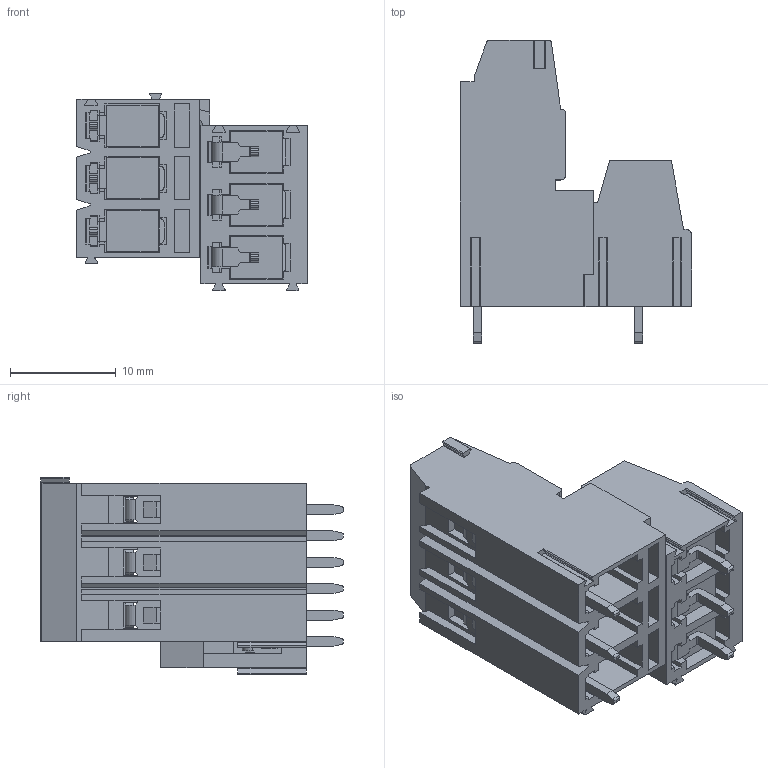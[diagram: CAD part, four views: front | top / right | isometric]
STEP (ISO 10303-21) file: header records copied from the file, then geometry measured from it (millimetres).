
FILE_DESCRIPTION((''),'2;1');
FILE_NAME('3PIN','2021-02-25T',('renkang.li'),(''),'CREO PARAMETRIC BY PTC INC, 2016260','CREO PARAMETRIC BY PTC INC, 2016260','');
FILE_SCHEMA(('CONFIG_CONTROL_DESIGN'));
Products named in the file (1): 3PIN
Bounding box: 21.9 x 28.7 x 18.69 mm (x, y, z)
Volume: 3341.9 mm3; surface area: 7892.6 mm2
Topology: 1 solids, 1 shells, 1422 faces, 4286 edges, 2830 vertices
Faces by surface type: plane 909, cylinder 387, bspline 60, cone 36, torus 30
Entity records: 69020 total; most frequent: CARTESIAN_POINT 31168, ORIENTED_EDGE 8572, DIRECTION 6988, EDGE_CURVE 4286, VECTOR 2964, LINE 2964, VERTEX_POINT 2830, AXIS2_PLACEMENT_3D 2012
